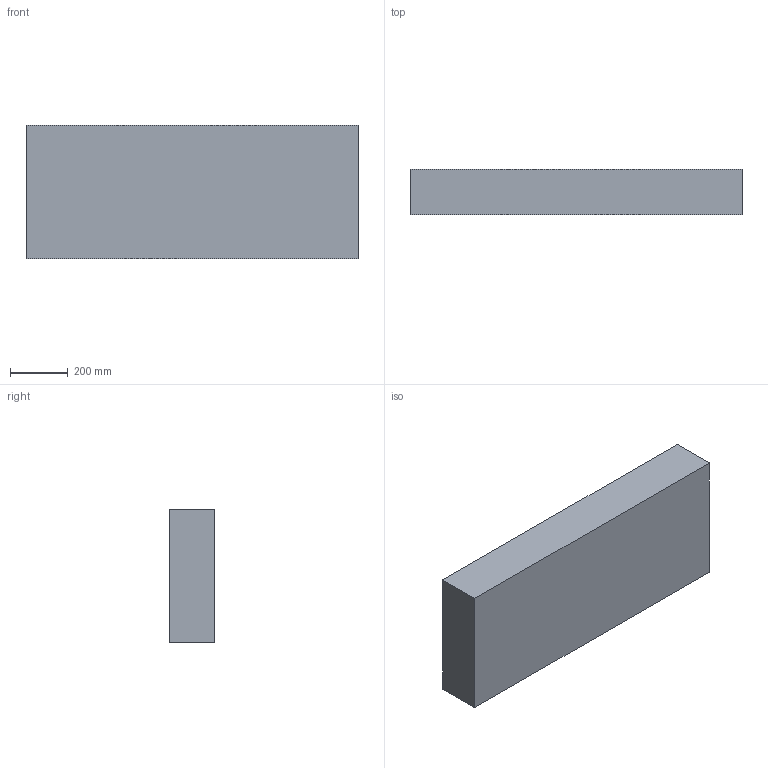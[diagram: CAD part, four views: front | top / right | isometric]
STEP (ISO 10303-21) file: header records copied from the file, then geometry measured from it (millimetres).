
FILE_DESCRIPTION (( 'STEP AP203' ), '1' );
FILE_NAME ('1745-BOTTOM.STEP', '2020-02-05T01:16:36', ( '' ), ( '' ), 'SwSTEP 2.0', 'SolidWorks 2016', '' );
FILE_SCHEMA (( 'CONFIG_CONTROL_DESIGN' ));
Products named in the file (1): 1745-BOTTOM
Bounding box: 1151.54 x 157.86 x 463.31 mm (x, y, z)
Volume: 18699545.6 mm3; surface area: 1964483.4 mm2
Topology: 1 solids, 1 shells, 1512 faces, 3605 edges, 2101 vertices
Faces by surface type: bspline 716, cylinder 374, plane 208, torus 118, cone 52, sphere 44
Entity records: 81115 total; most frequent: CARTESIAN_POINT 51856, ORIENTED_EDGE 7130, DIRECTION 4716, EDGE_CURVE 3565, VERTEX_POINT 2099, AXIS2_PLACEMENT_3D 1874, EDGE_LOOP 1556, FACE_OUTER_BOUND 1512
